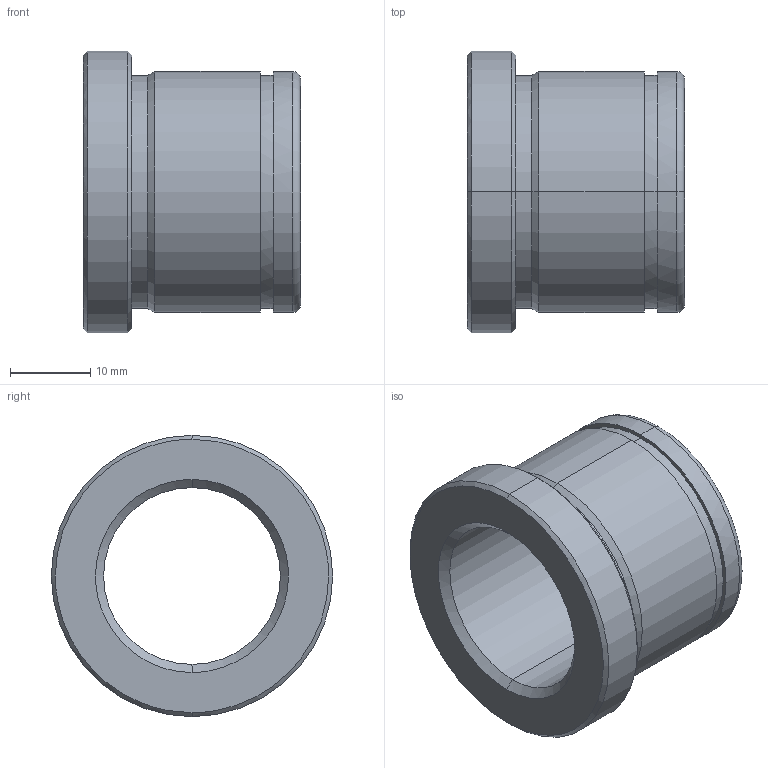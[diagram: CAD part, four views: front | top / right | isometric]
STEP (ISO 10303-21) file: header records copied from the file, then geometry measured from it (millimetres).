
FILE_DESCRIPTION(('CATIA V5 STEP Exchange'),'2;1');
FILE_NAME('C:\Users\Utente\Desktop\IO LAVORO\3D X SITO CF\X SITO\PLASTICA\553\553-22X27.stp','2021-05-25T18:13:33+00:00',('none'),('none'),'CATIA Version 5 Release 20 GA (IN-10)','CATIA V5 STEP AP203','none');
FILE_SCHEMA(('CONFIG_CONTROL_DESIGN'));
Length unit declared in the file: millimetre
Products named in the file (1): 553-22X27
Bounding box: 27 x 35 x 35 mm (x, y, z)
Volume: 10049 mm3; surface area: 5619.1 mm2
Topology: 1 solids, 1 shells, 29 faces, 92 edges, 68 vertices
Faces by surface type: cylinder 12, cone 8, plane 5, torus 4
Entity records: 1222 total; most frequent: CARTESIAN_POINT 368, ORIENTED_EDGE 184, DIRECTION 136, EDGE_CURVE 92, AXIS2_PLACEMENT_3D 88, VERTEX_POINT 68, CIRCLE 58, EDGE_LOOP 34
